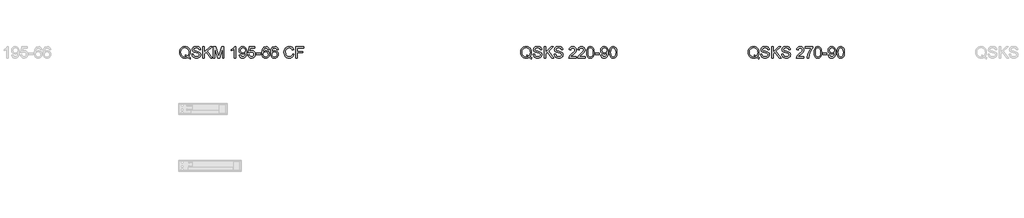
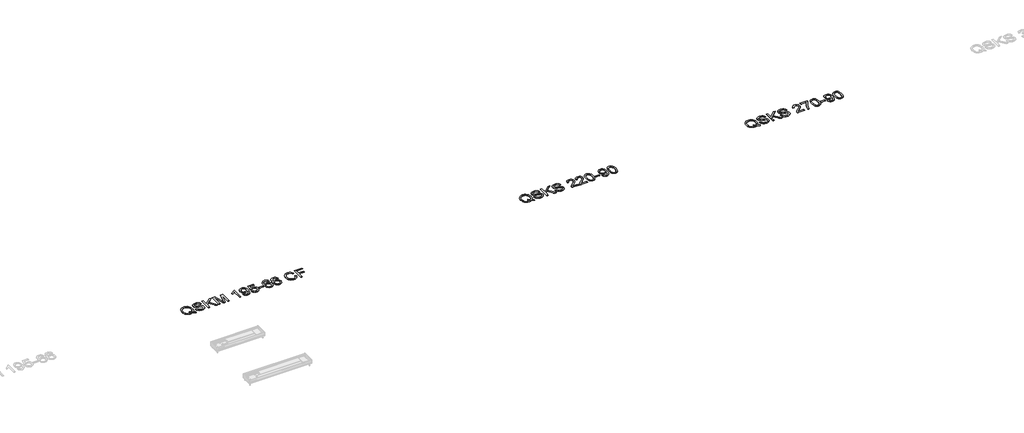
# One storey, part 14 of 17: 3 proxies.
"""IFC4 building model written with IfcOpenShell, lengths in millimetres."""

from ifc_helpers import new_model, si_unit, origin, origin_with_axes, place, context, project, spatial, polyline, outline, extrude, element, save

model = new_model("IFC4")

# Units and contexts
model_context = context("Model", 3, world=origin())
ifc_project = project(units=[si_unit("LENGTHUNIT", "METRE", prefix="MILLI")], contexts=[model_context])

# Site, building, storey
site = spatial("IfcSite", under=ifc_project)
building = spatial("IfcBuilding", under=site)
storey = spatial("IfcBuildingStorey", under=building, Name="Уровень 1", Elevation=0.0)

# Proxies
placement = place(None, origin())
element("IfcBuildingElementProxy", 1, Name="Текст модели 1", ObjectType="Текст модели 1", at=placement, inside=storey, context=model_context, shape_type="SweptSolid", body=[
    extrude(outline(polyline([(9854.9155502, 3515.8415377), (9886.0628925, 3494.8967894), (9879.2938637, 3476.5026897), (9858.5821074, 3486.1044098), (9837.9439275, 3499.9980864), (9814.7060481, 3491.4632242), (9789.1382495, 3488.6182701), (9763.4478235, 3491.8985512), (9740.2344696, 3501.7393946), (9720.7919061, 3517.5215321), (9706.4138515, 3538.6256959), (9697.5295013, 3563.8930576), (9694.5680512, 3592.164789), (9697.5233699, 3620.4610458), (9706.389326, 3646.0962895), (9720.7121984, 3667.5008902), (9740.0382658, 3683.1052182), (9763.1657806, 3692.6333619), (9788.8929948, 3695.8094097), (9814.8225441, 3692.5597855), (9838.0665548, 3682.8109126), (9857.3619655, 3667.212716), (9871.4457145, 3646.4151205), (9880.0541532, 3621.5217722), (9882.9236328, 3593.6363169), (9881.1823247, 3570.4474885), (9875.9584003, 3549.7357322), (9867.2150716, 3531.5255734), (9854.9155502, 3515.8415377)]), holes=[polyline([(9796.054431, 3549.2452229), (9817.1708575, 3541.2621836), (9834.2160566, 3530.16441), (9844.5382122, 3541.8140066), (9851.9111806, 3556.0633025), (9856.3349616, 3572.9122979), (9857.8095552, 3592.3609927), (9855.7248906, 3614.4645692), (9849.4708967, 3633.5883016), (9839.2008576, 3649.2478119), (9825.0680577, 3660.9587221), (9808.0289899, 3668.2611797), (9789.0401476, 3670.6953322), (9761.6697272, 3665.7718448), (9739.4006037, 3651.0013827), (9730.7737709, 3639.9419303), (9724.6117475, 3626.4575223), (9719.6821288, 3592.2138399), (9724.5565652, 3558.7059215), (9730.6496108, 3545.2583017), (9739.1798745, 3534.0149083), (9761.3815529, 3518.8029878), (9788.9910967, 3513.7323476), (9816.0181606, 3518.8826955), (9789.5797079, 3530.0172573), (9796.054431, 3549.2452229)])]), origin_with_axes(), (0.0, 0.0, 1.0), 2.0),
    extrude(outline(polyline([(9911.17697, 3560.821243), (9936.2910475, 3560.821243), (9944.3844514, 3535.68264), (9952.5146435, 3526.7921584), (9964.1519773, 3519.7901378), (9978.3767478, 3515.2467951), (9994.26925, 3513.7323476), (10020.511499, 3518.3186098), (10037.4585962, 3530.9246995), (10043.0258771, 3547.7736949), (10038.8565478, 3563.4454679), (10032.504452, 3569.6442795), (10021.7868232, 3574.8498097), (9985.2193529, 3584.4392671), (9945.8559794, 3596.8246276), (9933.3541229, 3605.2736507), (9924.4942982, 3615.5130329), (9919.2151916, 3627.322045), (9917.4554894, 3640.4799577), (9919.6321245, 3655.1891061), (9926.1620299, 3668.9049732), (9936.8735274, 3680.5300442), (9951.5949385, 3688.9668046), (9969.265537, 3694.0987585), (9988.8245964, 3695.8094097), (10010.0145994, 3694.0190507), (10028.5558519, 3688.6479736), (10043.7861665, 3679.806543), (10055.0433556, 3667.6051234), (10062.1680035, 3652.8040045), (10065.0006949, 3636.1634756), (10039.8866174, 3636.1634756), (10035.2758297, 3651.1485355), (10025.6618469, 3661.9642662), (10010.6399988, 3668.5125657), (9989.8056151, 3670.6953322), (9968.4807221, 3668.5370912), (9953.8512814, 3662.0623681), (9945.3899955, 3652.5342244), (9942.5695669, 3641.2157217), (9944.5683924, 3631.5649507), (9950.5648689, 3623.8026406), (9964.7405885, 3616.8619336), (9991.5714487, 3609.7740738), (10036.0115937, 3597.1679841), (10050.3283347, 3588.0567734), (10060.3163308, 3576.811847), (10066.1840487, 3563.5558325), (10068.1399546, 3548.411357), (10065.8897431, 3532.9296564), (10059.1391085, 3518.3676607), (10048.1639623, 3505.8351474), (10033.240216, 3496.4418938), (10015.293706, 3490.574176), (9995.2502686, 3488.6182701), (9970.6450945, 3490.7274602), (9950.3931907, 3497.0550305), (9934.2615652, 3507.6255065), (9922.0172261, 3522.4634136), (9914.1568142, 3540.5386823), (9911.17697, 3560.821243)])), origin_with_axes(), (0.0, 0.0, 1.0), 2.0),
    extrude(outline(polyline([(10105.8110709, 3491.7575298), (10105.8110709, 3692.6701501), (10130.9251484, 3692.6701501), (10130.9251484, 3594.32303), (10233.9321071, 3692.6701501), (10269.0525749, 3692.6701501), (10182.5757806, 3610.0683794), (10272.1918346, 3491.7575298), (10241.4859507, 3491.7575298), (10164.770292, 3593.0967567), (10130.9251484, 3560.821243), (10130.9251484, 3491.7575298), (10105.8110709, 3491.7575298)])), origin_with_axes(), (0.0, 0.0, 1.0), 2.0),
    extrude(outline(polyline([(10291.0273927, 3491.7575298), (10291.0273927, 3692.6701501), (10334.2412644, 3692.6701501), (10375.345946, 3551.0601074), (10383.6355537, 3521.482395), (10392.6118743, 3553.512654), (10433.0298429, 3692.6701501), (10476.2437146, 3692.6701501), (10476.2437146, 3491.7575298), (10451.129637, 3491.7575298), (10451.129637, 3667.5560725), (10400.6562273, 3491.7575298), (10366.61488, 3491.7575298), (10316.1414703, 3667.5560725), (10316.1414703, 3491.7575298), (10291.0273927, 3491.7575298)])), origin_with_axes(), (0.0, 0.0, 1.0), 2.0),
    extrude(outline(polyline([(10683.4348543, 3491.7575298), (10658.3207767, 3491.7575298), (10658.3207767, 3648.3281069), (10634.5310744, 3631.3810097), (10608.0926217, 3618.7013436), (10608.0926217, 3642.441995), (10644.9053466, 3665.9373917), (10658.375959, 3679.5122374), (10667.2480465, 3692.6701501), (10683.4348543, 3692.6701501), (10683.4348543, 3491.7575298)])), origin_with_axes(), (0.0, 0.0, 1.0), 2.0),
    extrude(outline(polyline([(10746.2200481, 3541.9856848), (10771.3341256, 3545.1249445), (10775.6260823, 3530.8695172), (10782.6158402, 3521.1635639), (10792.1317211, 3515.5901517), (10804.0020468, 3513.7323476), (10824.3336584, 3518.5148135), (10838.1169705, 3531.2925815), (10846.3330017, 3553.1202465), (10849.9627708, 3582.2565006), (10849.815618, 3587.1615938), (10841.1152088, 3576.5420669), (10829.729261, 3568.129832), (10816.4793778, 3562.6483902), (10802.1871623, 3560.821243), (10779.2865081, 3565.2848779), (10760.2240894, 3578.6757825), (10747.3666137, 3599.3630133), (10743.0807884, 3625.7156269), (10747.5750801, 3652.9388946), (10761.0579552, 3674.2760503), (10781.3098591, 3688.0716251), (10806.1112369, 3692.6701501), (10824.8425618, 3690.0459252), (10841.8938923, 3682.1732505), (10856.155451, 3669.4445334), (10866.5174605, 3652.2521815), (10872.8266368, 3628.4870046), (10874.9296955, 3596.0398127), (10872.8327681, 3561.6367147), (10866.541986, 3535.0449779), (10856.1125314, 3515.0628541), (10841.5995867, 3500.4885958), (10823.6285513, 3491.5858515), (10802.8248244, 3488.6182701), (10781.3527787, 3492.1192804), (10764.2217404, 3502.6223113), (10752.2410501, 3519.4651754), (10746.2200481, 3541.9856848)]), holes=[polyline([(10849.815618, 3626.3042381), (10847.1055539, 3643.3249118), (10838.9753618, 3656.4215108), (10826.3570094, 3664.7724321), (10810.1824643, 3667.5560725), (10793.4070454, 3664.5578343), (10779.9670898, 3655.5631195), (10771.1379219, 3641.7982015), (10768.194866, 3624.4893536), (10770.9785064, 3608.9708648), (10779.3294277, 3596.6529493), (10792.4382894, 3588.6147277), (10809.4957513, 3585.9353205), (10825.5415376, 3588.6147277), (10838.460327, 3596.6529493), (10846.9767952, 3609.4245859), (10849.815618, 3626.3042381)])]), origin_with_axes(), (0.0, 0.0, 1.0), 2.0),
    extrude(outline(polyline([(10896.9045133, 3545.1249445), (10922.0185909, 3548.2642042), (10926.6293785, 3533.1871738), (10934.6737315, 3522.3898372), (10946.1148616, 3515.89672), (10960.9159805, 3513.7323476), (10978.9176728, 3516.7428486), (10992.4066793, 3525.7743516), (11000.831177, 3539.7845242), (11003.6393429, 3557.7310342), (11001.0089866, 3574.6290805), (10993.1179178, 3587.5540013), (10979.9048228, 3595.7577698), (10961.308388, 3598.4923593), (10939.2599937, 3594.1268263), (10925.1578506, 3582.7960608), (10900.043773, 3585.9353205), (10922.0185909, 3689.5308904), (11019.3356413, 3689.5308904), (11019.3356413, 3664.4168128), (10942.325677, 3664.4168128), (10931.5835227, 3609.0873607), (10949.5239014, 3619.9766678), (10968.3226713, 3623.6064368), (10991.7874113, 3619.1060137), (11011.2667629, 3605.6047445), (11024.381756, 3585.0278783), (11028.7534204, 3559.3006641), (11024.8170831, 3534.1865865), (11013.008071, 3512.702278), (11002.5724851, 3502.1655245), (10990.395591, 3494.639272), (10976.4773889, 3490.1235206), (10960.8178786, 3488.6182701), (10936.1513909, 3492.4871624), (10916.5003609, 3504.0938393), (10903.0297486, 3522.0894003), (10896.9045133, 3545.1249445)])), origin_with_axes(), (0.0, 0.0, 1.0), 2.0),
    extrude(outline(polyline([(11044.4497189, 3551.4034639), (11044.4497189, 3576.5175414), (11122.9312112, 3576.5175414), (11122.9312112, 3551.4034639), (11044.4497189, 3551.4034639)])), origin_with_axes(), (0.0, 0.0, 1.0), 2.0),
    extrude(outline(polyline([(11273.6156764, 3639.3027353), (11248.5015989, 3636.1634756), (11238.9857179, 3657.1082239), (11227.5936388, 3664.9441103), (11213.8225894, 3667.5560725), (11191.1610585, 3661.4737569), (11181.7248854, 3651.8659054), (11174.0177576, 3638.6405477), (11168.8122273, 3619.9337482), (11166.8808469, 3593.8815716), (11176.9546822, 3605.6354014), (11189.027343, 3613.9188776), (11202.424379, 3618.8301023), (11216.4713398, 3620.4671771), (11239.672431, 3615.9912795), (11259.1456513, 3602.5635867), (11272.3526149, 3582.0480341), (11276.7549361, 3556.3085572), (11274.6825342, 3538.325259), (11268.4653285, 3521.6540732), (11258.6183537, 3507.5151419), (11245.6566448, 3497.1286069), (11230.1688128, 3490.7458543), (11212.7434689, 3488.6182701), (11184.2510084, 3494.2591273), (11161.5588207, 3511.1816991), (11152.8997982, 3524.2905609), (11146.7147822, 3541.0537171), (11141.7667693, 3585.5429131), (11147.2604738, 3635.5626017), (11154.1276044, 3654.6403488), (11163.7415872, 3669.7633645), (11174.1618447, 3679.7850832), (11186.2437025, 3686.9434537), (11215.3922193, 3692.6701501), (11237.4283508, 3689.1262202), (11255.0744238, 3678.4944305), (11267.4352589, 3661.6086469), (11273.6156764, 3639.3027353)]), holes=[polyline([(11166.8808469, 3556.7009646), (11172.6933824, 3534.946876), (11188.1444262, 3519.1524757), (11210.7814316, 3513.7323476), (11227.3545155, 3516.5405135), (11240.3836695, 3524.9650112), (11248.8265613, 3538.208763), (11251.6408586, 3555.4746913), (11248.8633495, 3572.0477752), (11240.5308223, 3584.6845217), (11227.2809391, 3592.6859551), (11209.751362, 3595.3530996), (11193.2028036, 3592.6859551), (11179.3643092, 3584.6845217), (11170.0017125, 3572.3543435), (11166.8808469, 3556.7009646)])]), origin_with_axes(), (0.0, 0.0, 1.0), 2.0),
    extrude(outline(polyline([(11427.4394013, 3639.3027353), (11402.3253238, 3636.1634756), (11392.8094428, 3657.1082239), (11381.4173637, 3664.9441103), (11367.6463144, 3667.5560725), (11344.9847835, 3661.4737569), (11335.5486103, 3651.8659054), (11327.8414825, 3638.6405477), (11322.6359523, 3619.9337482), (11320.7045718, 3593.8815716), (11330.7784071, 3605.6354014), (11342.8510679, 3613.9188776), (11356.2481039, 3618.8301023), (11370.2950647, 3620.4671771), (11393.4961559, 3615.9912795), (11412.9693762, 3602.5635867), (11426.1763398, 3582.0480341), (11430.578661, 3556.3085572), (11428.5062591, 3538.325259), (11422.2890534, 3521.6540732), (11412.4420786, 3507.5151419), (11399.4803697, 3497.1286069), (11383.9925377, 3490.7458543), (11366.5671938, 3488.6182701), (11338.0747333, 3494.2591273), (11315.3825456, 3511.1816991), (11306.7235231, 3524.2905609), (11300.5385071, 3541.0537171), (11295.5904942, 3585.5429131), (11301.0841987, 3635.5626017), (11307.9513293, 3654.6403488), (11317.5653121, 3669.7633645), (11327.9855696, 3679.7850832), (11340.0674275, 3686.9434537), (11369.2159442, 3692.6701501), (11391.2520757, 3689.1262202), (11408.8981488, 3678.4944305), (11421.2589838, 3661.6086469), (11427.4394013, 3639.3027353)]), holes=[polyline([(11320.7045718, 3556.7009646), (11326.5171073, 3534.946876), (11341.9681511, 3519.1524757), (11364.6051565, 3513.7323476), (11381.1782404, 3516.5405135), (11394.2073944, 3524.9650112), (11402.6502862, 3538.208763), (11405.4645835, 3555.4746913), (11402.6870744, 3572.0477752), (11394.3545472, 3584.6845217), (11381.104664, 3592.6859551), (11363.575087, 3595.3530996), (11347.0265285, 3592.6859551), (11333.1880341, 3584.6845217), (11323.8254374, 3572.3543435), (11320.7045718, 3556.7009646)])]), origin_with_axes(), (0.0, 0.0, 1.0), 2.0),
    extrude(outline(polyline([(11681.7194364, 3563.1756877), (11706.8335139, 3556.7009646), (11695.2452311, 3527.4359519), (11677.0595978, 3506.0558766), (11653.1717936, 3492.9776717), (11624.4769979, 3488.6182701), (11595.3468753, 3491.9169453), (11572.2132291, 3501.812971), (11554.481317, 3517.9629905), (11541.5563962, 3540.0236475), (11533.6653274, 3565.9593282), (11531.0349712, 3593.7344188), (11534.0086839, 3623.0300884), (11542.9298223, 3648.3281069), (11557.3324024, 3668.8252654), (11576.7504404, 3683.7183548), (11599.7798533, 3692.786646), (11625.0165582, 3695.8094097), (11652.5525255, 3691.8975979), (11675.3182897, 3680.1621622), (11692.6026121, 3661.3266041), (11703.6942542, 3636.1144247), (11678.5801767, 3630.1302109), (11669.8736361, 3648.4446029), (11657.978785, 3661.007773), (11642.7484704, 3668.2734424), (11624.0355395, 3670.6953322), (11602.4653919, 3668.0097936), (11584.7457425, 3659.9531779), (11571.2996555, 3647.3716137), (11562.5501954, 3631.1112295), (11557.7493354, 3612.7293925), (11556.1490487, 3593.7834697), (11558.043641, 3570.5823786), (11563.7274178, 3550.5205471), (11573.414977, 3534.3643962), (11587.3209164, 3522.8803465), (11603.9921022, 3516.0193473), (11621.9754004, 3513.7323476), (11642.9385427, 3516.8470818), (11660.4068061, 3526.1912845), (11673.5953757, 3541.6668538), (11681.7194364, 3563.1756877)])), origin_with_axes(), (0.0, 0.0, 1.0), 2.0),
    extrude(outline(polyline([(11741.3653705, 3491.7575298), (11741.3653705, 3692.6701501), (11876.3535373, 3692.6701501), (11876.3535373, 3667.5560725), (11766.4794481, 3667.5560725), (11766.4794481, 3607.9101384), (11860.6572388, 3607.9101384), (11860.6572388, 3582.7960608), (11766.4794481, 3582.7960608), (11766.4794481, 3491.7575298), (11741.3653705, 3491.7575298)])), origin_with_axes(), (0.0, 0.0, 1.0), 2.0),
])
element("IfcBuildingElementProxy", 2, Name="Текст модели 1", ObjectType="Текст модели 1", at=placement, inside=storey, context=model_context, shape_type="SweptSolid", body=[
    extrude(outline(polyline([(15854.9155502, 3515.8415377), (15886.0628925, 3494.8967894), (15879.2938637, 3476.5026897), (15858.5821074, 3486.1044098), (15837.9439275, 3499.9980864), (15814.7060481, 3491.4632242), (15789.1382495, 3488.6182701), (15763.4478235, 3491.8985512), (15740.2344696, 3501.7393946), (15720.7919061, 3517.5215321), (15706.4138515, 3538.6256959), (15697.5295013, 3563.8930576), (15694.5680512, 3592.164789), (15697.5233699, 3620.4610458), (15706.389326, 3646.0962895), (15720.7121984, 3667.5008902), (15740.0382658, 3683.1052182), (15763.1657806, 3692.6333619), (15788.8929948, 3695.8094097), (15814.8225441, 3692.5597855), (15838.0665548, 3682.8109126), (15857.3619655, 3667.212716), (15871.4457145, 3646.4151205), (15880.0541532, 3621.5217722), (15882.9236328, 3593.6363169), (15881.1823247, 3570.4474885), (15875.9584003, 3549.7357322), (15867.2150716, 3531.5255734), (15854.9155502, 3515.8415377)]), holes=[polyline([(15796.054431, 3549.2452229), (15817.1708575, 3541.2621836), (15834.2160566, 3530.16441), (15844.5382122, 3541.8140066), (15851.9111806, 3556.0633025), (15856.3349616, 3572.9122979), (15857.8095552, 3592.3609927), (15855.7248906, 3614.4645692), (15849.4708967, 3633.5883016), (15839.2008576, 3649.2478119), (15825.0680577, 3660.9587221), (15808.0289899, 3668.2611797), (15789.0401476, 3670.6953322), (15761.6697272, 3665.7718448), (15739.4006037, 3651.0013827), (15730.7737709, 3639.9419303), (15724.6117475, 3626.4575223), (15719.6821288, 3592.2138399), (15724.5565652, 3558.7059215), (15730.6496108, 3545.2583017), (15739.1798745, 3534.0149083), (15761.3815529, 3518.8029878), (15788.9910967, 3513.7323476), (15816.0181606, 3518.8826955), (15789.5797079, 3530.0172573), (15796.054431, 3549.2452229)])]), origin_with_axes(), (0.0, 0.0, 1.0), 2.0),
    extrude(outline(polyline([(15911.17697, 3560.821243), (15936.2910475, 3560.821243), (15944.3844514, 3535.68264), (15952.5146435, 3526.7921584), (15964.1519773, 3519.7901378), (15978.3767478, 3515.2467951), (15994.26925, 3513.7323476), (16020.511499, 3518.3186098), (16037.4585962, 3530.9246995), (16043.0258771, 3547.7736949), (16038.8565478, 3563.4454679), (16032.504452, 3569.6442795), (16021.7868232, 3574.8498097), (15985.2193529, 3584.4392671), (15945.8559794, 3596.8246276), (15933.3541229, 3605.2736507), (15924.4942982, 3615.5130329), (15919.2151916, 3627.322045), (15917.4554894, 3640.4799577), (15919.6321245, 3655.1891061), (15926.1620299, 3668.9049732), (15936.8735274, 3680.5300442), (15951.5949385, 3688.9668046), (15969.265537, 3694.0987585), (15988.8245964, 3695.8094097), (16010.0145994, 3694.0190507), (16028.5558519, 3688.6479736), (16043.7861665, 3679.806543), (16055.0433556, 3667.6051234), (16062.1680035, 3652.8040045), (16065.0006949, 3636.1634756), (16039.8866174, 3636.1634756), (16035.2758297, 3651.1485355), (16025.6618469, 3661.9642662), (16010.6399988, 3668.5125657), (15989.8056151, 3670.6953322), (15968.4807221, 3668.5370912), (15953.8512814, 3662.0623681), (15945.3899955, 3652.5342244), (15942.5695669, 3641.2157217), (15944.5683924, 3631.5649507), (15950.5648689, 3623.8026406), (15964.7405885, 3616.8619336), (15991.5714487, 3609.7740738), (16036.0115937, 3597.1679841), (16050.3283347, 3588.0567734), (16060.3163308, 3576.811847), (16066.1840487, 3563.5558325), (16068.1399546, 3548.411357), (16065.8897431, 3532.9296564), (16059.1391085, 3518.3676607), (16048.1639623, 3505.8351474), (16033.240216, 3496.4418938), (16015.293706, 3490.574176), (15995.2502686, 3488.6182701), (15970.6450945, 3490.7274602), (15950.3931907, 3497.0550305), (15934.2615652, 3507.6255065), (15922.0172261, 3522.4634136), (15914.1568142, 3540.5386823), (15911.17697, 3560.821243)])), origin_with_axes(), (0.0, 0.0, 1.0), 2.0),
    extrude(outline(polyline([(16105.8110709, 3491.7575298), (16105.8110709, 3692.6701501), (16130.9251484, 3692.6701501), (16130.9251484, 3594.32303), (16233.9321071, 3692.6701501), (16269.0525749, 3692.6701501), (16182.5757806, 3610.0683794), (16272.1918346, 3491.7575298), (16241.4859507, 3491.7575298), (16164.770292, 3593.0967567), (16130.9251484, 3560.821243), (16130.9251484, 3491.7575298), (16105.8110709, 3491.7575298)])), origin_with_axes(), (0.0, 0.0, 1.0), 2.0),
    extrude(outline(polyline([(16281.6096137, 3560.821243), (16306.7236912, 3560.821243), (16314.8170951, 3535.68264), (16322.9472872, 3526.7921584), (16334.584621, 3519.7901378), (16348.8093915, 3515.2467951), (16364.7018936, 3513.7323476), (16390.9441426, 3518.3186098), (16407.8912399, 3530.9246995), (16413.4585207, 3547.7736949), (16409.2891915, 3563.4454679), (16402.9370957, 3569.6442795), (16392.2194669, 3574.8498097), (16355.6519966, 3584.4392671), (16316.2886231, 3596.8246276), (16303.7867666, 3605.2736507), (16294.9269419, 3615.5130329), (16289.6478353, 3627.322045), (16287.8881331, 3640.4799577), (16290.0647682, 3655.1891061), (16296.5946736, 3668.9049732), (16307.306171, 3680.5300442), (16322.0275822, 3688.9668046), (16339.6981807, 3694.0987585), (16359.2572401, 3695.8094097), (16380.447243, 3694.0190507), (16398.9884956, 3688.6479736), (16414.2188102, 3679.806543), (16425.4759992, 3667.6051234), (16432.6006472, 3652.8040045), (16435.4333386, 3636.1634756), (16410.319261, 3636.1634756), (16405.7084734, 3651.1485355), (16396.0944906, 3661.9642662), (16381.0726424, 3668.5125657), (16360.2382588, 3670.6953322), (16338.9133658, 3668.5370912), (16324.2839251, 3662.0623681), (16315.8226392, 3652.5342244), (16313.0022106, 3641.2157217), (16315.0010361, 3631.5649507), (16320.9975126, 3623.8026406), (16335.1732322, 3616.8619336), (16362.0040923, 3609.7740738), (16406.4442374, 3597.1679841), (16420.7609783, 3588.0567734), (16430.7489745, 3576.811847), (16436.6166923, 3563.5558325), (16438.5725983, 3548.411357), (16436.3223867, 3532.9296564), (16429.5717521, 3518.3676607), (16418.5966059, 3505.8351474), (16403.6728597, 3496.4418938), (16385.7263497, 3490.574176), (16365.6829123, 3488.6182701), (16341.0777382, 3490.7274602), (16320.8258344, 3497.0550305), (16304.6942089, 3507.6255065), (16292.4498698, 3522.4634136), (16284.5894578, 3540.5386823), (16281.6096137, 3560.821243)])), origin_with_axes(), (0.0, 0.0, 1.0), 2.0),
    extrude(outline(polyline([(16674.0170752, 3516.8716073), (16674.0170752, 3491.7575298), (16542.1681681, 3491.7575298), (16544.8659694, 3509.072509), (16560.1208095, 3535.7316909), (16591.5624573, 3564.8434195), (16634.9234818, 3606.683865), (16643.0536739, 3621.1048393), (16645.763738, 3635.133406), (16643.2069581, 3647.7088389), (16635.5366185, 3658.1628189), (16623.7460005, 3665.2077591), (16608.8283856, 3667.5560725), (16593.162744, 3665.2629414), (16580.9919813, 3658.3835481), (16573.1377007, 3647.4574528), (16570.4215053, 3633.0242159), (16545.3074278, 3636.1634756), (16551.3958748, 3660.45595), (16564.5599189, 3678.2001249), (16584.1128469, 3689.0526438), (16609.3679459, 3692.6701501), (16634.8069859, 3688.6479736), (16654.3231257, 3676.5814441), (16666.7391431, 3658.5552264), (16670.8778155, 3636.6539849), (16666.4141806, 3612.8397571), (16651.5762735, 3588.2161889), (16615.5974144, 3553.8069596), (16586.706415, 3529.6493753), (16575.3756496, 3516.8716073), (16674.0170752, 3516.8716073)])), origin_with_axes(), (0.0, 0.0, 1.0), 2.0),
    extrude(outline(polyline([(16827.8408001, 3516.8716073), (16827.8408001, 3491.7575298), (16695.991893, 3491.7575298), (16698.6896943, 3509.072509), (16713.9445344, 3535.7316909), (16745.3861823, 3564.8434195), (16788.7472068, 3606.683865), (16796.8773988, 3621.1048393), (16799.5874629, 3635.133406), (16797.030683, 3647.7088389), (16789.3603434, 3658.1628189), (16777.5697255, 3665.2077591), (16762.6521106, 3667.5560725), (16746.9864689, 3665.2629414), (16734.8157063, 3658.3835481), (16726.9614257, 3647.4574528), (16724.2452303, 3633.0242159), (16699.1311527, 3636.1634756), (16705.2195997, 3660.45595), (16718.3836438, 3678.2001249), (16737.9365719, 3689.0526438), (16763.1916708, 3692.6701501), (16788.6307108, 3688.6479736), (16808.1468506, 3676.5814441), (16820.562868, 3658.5552264), (16824.7015404, 3636.6539849), (16820.2379055, 3612.8397571), (16805.3999984, 3588.2161889), (16769.4211393, 3553.8069596), (16740.5301399, 3529.6493753), (16729.1993745, 3516.8716073), (16827.8408001, 3516.8716073)])), origin_with_axes(), (0.0, 0.0, 1.0), 2.0),
    extrude(outline(polyline([(16852.9548776, 3590.5951591), (16854.800419, 3622.7541769), (16860.337043, 3648.4016833), (16869.5095674, 3667.9300859), (16882.2628099, 3681.7317921), (16898.688741, 3689.9355606), (16918.8793312, 3692.6701501), (16934.3549004, 3691.0514693), (16948.2117889, 3686.1954269), (16959.8000718, 3678.2920954), (16968.4698241, 3667.531547), (16980.242048, 3637.8066818), (16984.8037847, 3590.5951591), (16982.9766375, 3558.6200824), (16977.4951957, 3533.0338896), (16968.3778536, 3513.4870929), (16955.6430052, 3499.6302044), (16939.1802859, 3491.3712537), (16918.8793312, 3488.6182701), (16892.784235, 3493.400736), (16872.9676582, 3507.7481338), (16864.2120667, 3522.8772809), (16857.9580728, 3541.7281674), (16852.9548776, 3590.5951591)]), holes=[polyline([(16878.0689552, 3590.6442101), (16881.0120111, 3551.1398151), (16889.841179, 3528.2759491), (16902.986829, 3517.368248), (16918.8793312, 3513.7323476), (16934.7718334, 3517.3805107), (16947.9174833, 3528.3250001), (16956.7466512, 3551.2011288), (16959.6897072, 3590.6442101), (16956.8447531, 3629.2595568), (16948.3098908, 3652.3012324), (16935.1887663, 3663.7423625), (16918.5850256, 3667.5560725), (16902.8642017, 3664.1960836), (16890.2335865, 3654.116117), (16881.110113, 3629.6397015), (16878.0689552, 3590.6442101)])]), origin_with_axes(), (0.0, 0.0, 1.0), 2.0),
    extrude(outline(polyline([(17000.5000832, 3551.4034639), (17000.5000832, 3576.5175414), (17078.9815755, 3576.5175414), (17078.9815755, 3551.4034639), (17000.5000832, 3551.4034639)])), origin_with_axes(), (0.0, 0.0, 1.0), 2.0),
    extrude(outline(polyline([(17104.095653, 3541.9856848), (17129.2097306, 3545.1249445), (17133.5016872, 3530.8695172), (17140.4914451, 3521.1635639), (17150.007326, 3515.5901517), (17161.8776517, 3513.7323476), (17182.2092633, 3518.5148135), (17195.9925754, 3531.2925815), (17204.2086066, 3553.1202465), (17207.8383757, 3582.2565006), (17207.6912229, 3587.1615938), (17198.9908137, 3576.5420669), (17187.6048659, 3568.129832), (17174.3549827, 3562.6483902), (17160.0627672, 3560.821243), (17137.162113, 3565.2848779), (17118.0996943, 3578.6757825), (17105.2422186, 3599.3630133), (17100.9563933, 3625.7156269), (17105.450685, 3652.9388946), (17118.9335602, 3674.2760503), (17139.185464, 3688.0716251), (17163.9868418, 3692.6701501), (17182.7181668, 3690.0459252), (17199.7694972, 3682.1732505), (17214.0310559, 3669.4445334), (17224.3930654, 3652.2521815), (17230.7022417, 3628.4870046), (17232.8053004, 3596.0398127), (17230.708373, 3561.6367147), (17224.4175909, 3535.0449779), (17213.9881363, 3515.0628541), (17199.4751916, 3500.4885958), (17181.5041562, 3491.5858515), (17160.7004293, 3488.6182701), (17139.2283836, 3492.1192804), (17122.0973453, 3502.6223113), (17110.116655, 3519.4651754), (17104.095653, 3541.9856848)]), holes=[polyline([(17207.6912229, 3626.3042381), (17204.9811588, 3643.3249118), (17196.8509667, 3656.4215108), (17184.2326143, 3664.7724321), (17168.0580692, 3667.5560725), (17151.2826503, 3664.5578343), (17137.8426947, 3655.5631195), (17129.0135268, 3641.7982015), (17126.0704709, 3624.4893536), (17128.8541113, 3608.9708648), (17137.2050326, 3596.6529493), (17150.3138943, 3588.6147277), (17167.3713562, 3585.9353205), (17183.4171425, 3588.6147277), (17196.3359319, 3596.6529493), (17204.8524001, 3609.4245859), (17207.6912229, 3626.3042381)])]), origin_with_axes(), (0.0, 0.0, 1.0), 2.0),
    extrude(outline(polyline([(17254.7801182, 3590.5951591), (17256.6256596, 3622.7541769), (17262.1622836, 3648.4016833), (17271.334808, 3667.9300859), (17284.0880505, 3681.7317921), (17300.5139816, 3689.9355606), (17320.7045718, 3692.6701501), (17336.180141, 3691.0514693), (17350.0370295, 3686.1954269), (17361.6253124, 3678.2920954), (17370.2950647, 3667.531547), (17382.0672886, 3637.8066818), (17386.6290253, 3590.5951591), (17384.8018781, 3558.6200824), (17379.3204363, 3533.0338896), (17370.2030942, 3513.4870929), (17357.4682458, 3499.6302044), (17341.0055265, 3491.3712537), (17320.7045718, 3488.6182701), (17294.6094756, 3493.400736), (17274.7928988, 3507.7481338), (17266.0373073, 3522.8772809), (17259.7833134, 3541.7281674), (17254.7801182, 3590.5951591)]), holes=[polyline([(17279.8941958, 3590.6442101), (17282.8372517, 3551.1398151), (17291.6664196, 3528.2759491), (17304.8120696, 3517.368248), (17320.7045718, 3513.7323476), (17336.597074, 3517.3805107), (17349.7427239, 3528.3250001), (17358.5718918, 3551.2011288), (17361.5149478, 3590.6442101), (17358.6699937, 3629.2595568), (17350.1351314, 3652.3012324), (17337.0140069, 3663.7423625), (17320.4102662, 3667.5560725), (17304.6894423, 3664.1960836), (17292.0588271, 3654.116117), (17282.9353536, 3629.6397015), (17279.8941958, 3590.6442101)])]), origin_with_axes(), (0.0, 0.0, 1.0), 2.0),
])
element("IfcBuildingElementProxy", 3, Name="Текст модели 1", ObjectType="Текст модели 1", at=placement, inside=storey, context=model_context, shape_type="SweptSolid", body=[
    extrude(outline(polyline([(19854.9155502, 3515.8415377), (19886.0628925, 3494.8967894), (19879.2938637, 3476.5026897), (19858.5821074, 3486.1044098), (19837.9439275, 3499.9980864), (19814.7060481, 3491.4632242), (19789.1382495, 3488.6182701), (19763.4478235, 3491.8985512), (19740.2344696, 3501.7393946), (19720.7919061, 3517.5215321), (19706.4138515, 3538.6256959), (19697.5295013, 3563.8930576), (19694.5680512, 3592.164789), (19697.5233699, 3620.4610458), (19706.389326, 3646.0962895), (19720.7121984, 3667.5008902), (19740.0382658, 3683.1052182), (19763.1657806, 3692.6333619), (19788.8929948, 3695.8094097), (19814.8225441, 3692.5597855), (19838.0665548, 3682.8109126), (19857.3619655, 3667.212716), (19871.4457145, 3646.4151205), (19880.0541532, 3621.5217722), (19882.9236328, 3593.6363169), (19881.1823247, 3570.4474885), (19875.9584003, 3549.7357322), (19867.2150716, 3531.5255734), (19854.9155502, 3515.8415377)]), holes=[polyline([(19796.054431, 3549.2452229), (19817.1708575, 3541.2621836), (19834.2160566, 3530.16441), (19844.5382122, 3541.8140066), (19851.9111806, 3556.0633025), (19856.3349616, 3572.9122979), (19857.8095552, 3592.3609927), (19855.7248906, 3614.4645692), (19849.4708967, 3633.5883016), (19839.2008576, 3649.2478119), (19825.0680577, 3660.9587221), (19808.0289899, 3668.2611797), (19789.0401476, 3670.6953322), (19761.6697272, 3665.7718448), (19739.4006037, 3651.0013827), (19730.7737709, 3639.9419303), (19724.6117475, 3626.4575223), (19719.6821288, 3592.2138399), (19724.5565652, 3558.7059215), (19730.6496108, 3545.2583017), (19739.1798745, 3534.0149083), (19761.3815529, 3518.8029878), (19788.9910967, 3513.7323476), (19816.0181606, 3518.8826955), (19789.5797079, 3530.0172573), (19796.054431, 3549.2452229)])]), origin_with_axes(), (0.0, 0.0, 1.0), 2.0),
    extrude(outline(polyline([(19911.17697, 3560.821243), (19936.2910475, 3560.821243), (19944.3844514, 3535.68264), (19952.5146435, 3526.7921584), (19964.1519773, 3519.7901378), (19978.3767478, 3515.2467951), (19994.26925, 3513.7323476), (20020.511499, 3518.3186098), (20037.4585962, 3530.9246995), (20043.0258771, 3547.7736949), (20038.8565478, 3563.4454679), (20032.504452, 3569.6442795), (20021.7868232, 3574.8498097), (19985.2193529, 3584.4392671), (19945.8559794, 3596.8246276), (19933.3541229, 3605.2736507), (19924.4942982, 3615.5130329), (19919.2151916, 3627.322045), (19917.4554894, 3640.4799577), (19919.6321245, 3655.1891061), (19926.1620299, 3668.9049732), (19936.8735274, 3680.5300442), (19951.5949385, 3688.9668046), (19969.265537, 3694.0987585), (19988.8245964, 3695.8094097), (20010.0145994, 3694.0190507), (20028.5558519, 3688.6479736), (20043.7861665, 3679.806543), (20055.0433556, 3667.6051234), (20062.1680035, 3652.8040045), (20065.0006949, 3636.1634756), (20039.8866174, 3636.1634756), (20035.2758297, 3651.1485355), (20025.6618469, 3661.9642662), (20010.6399988, 3668.5125657), (19989.8056151, 3670.6953322), (19968.4807221, 3668.5370912), (19953.8512814, 3662.0623681), (19945.3899955, 3652.5342244), (19942.5695669, 3641.2157217), (19944.5683924, 3631.5649507), (19950.5648689, 3623.8026406), (19964.7405885, 3616.8619336), (19991.5714487, 3609.7740738), (20036.0115937, 3597.1679841), (20050.3283347, 3588.0567734), (20060.3163308, 3576.811847), (20066.1840487, 3563.5558325), (20068.1399546, 3548.411357), (20065.8897431, 3532.9296564), (20059.1391085, 3518.3676607), (20048.1639623, 3505.8351474), (20033.240216, 3496.4418938), (20015.293706, 3490.574176), (19995.2502686, 3488.6182701), (19970.6450945, 3490.7274602), (19950.3931907, 3497.0550305), (19934.2615652, 3507.6255065), (19922.0172261, 3522.4634136), (19914.1568142, 3540.5386823), (19911.17697, 3560.821243)])), origin_with_axes(), (0.0, 0.0, 1.0), 2.0),
    extrude(outline(polyline([(20105.8110709, 3491.7575298), (20105.8110709, 3692.6701501), (20130.9251484, 3692.6701501), (20130.9251484, 3594.32303), (20233.9321071, 3692.6701501), (20269.0525749, 3692.6701501), (20182.5757806, 3610.0683794), (20272.1918346, 3491.7575298), (20241.4859507, 3491.7575298), (20164.770292, 3593.0967567), (20130.9251484, 3560.821243), (20130.9251484, 3491.7575298), (20105.8110709, 3491.7575298)])), origin_with_axes(), (0.0, 0.0, 1.0), 2.0),
    extrude(outline(polyline([(20281.6096137, 3560.821243), (20306.7236912, 3560.821243), (20314.8170951, 3535.68264), (20322.9472872, 3526.7921584), (20334.584621, 3519.7901378), (20348.8093915, 3515.2467951), (20364.7018936, 3513.7323476), (20390.9441426, 3518.3186098), (20407.8912399, 3530.9246995), (20413.4585207, 3547.7736949), (20409.2891915, 3563.4454679), (20402.9370957, 3569.6442795), (20392.2194669, 3574.8498097), (20355.6519966, 3584.4392671), (20316.2886231, 3596.8246276), (20303.7867666, 3605.2736507), (20294.9269419, 3615.5130329), (20289.6478353, 3627.322045), (20287.8881331, 3640.4799577), (20290.0647682, 3655.1891061), (20296.5946736, 3668.9049732), (20307.306171, 3680.5300442), (20322.0275822, 3688.9668046), (20339.6981807, 3694.0987585), (20359.2572401, 3695.8094097), (20380.447243, 3694.0190507), (20398.9884956, 3688.6479736), (20414.2188102, 3679.806543), (20425.4759992, 3667.6051234), (20432.6006472, 3652.8040045), (20435.4333386, 3636.1634756), (20410.319261, 3636.1634756), (20405.7084734, 3651.1485355), (20396.0944906, 3661.9642662), (20381.0726424, 3668.5125657), (20360.2382588, 3670.6953322), (20338.9133658, 3668.5370912), (20324.2839251, 3662.0623681), (20315.8226392, 3652.5342244), (20313.0022106, 3641.2157217), (20315.0010361, 3631.5649507), (20320.9975126, 3623.8026406), (20335.1732322, 3616.8619336), (20362.0040923, 3609.7740738), (20406.4442374, 3597.1679841), (20420.7609783, 3588.0567734), (20430.7489745, 3576.811847), (20436.6166923, 3563.5558325), (20438.5725983, 3548.411357), (20436.3223867, 3532.9296564), (20429.5717521, 3518.3676607), (20418.5966059, 3505.8351474), (20403.6728597, 3496.4418938), (20385.7263497, 3490.574176), (20365.6829123, 3488.6182701), (20341.0777382, 3490.7274602), (20320.8258344, 3497.0550305), (20304.6942089, 3507.6255065), (20292.4498698, 3522.4634136), (20284.5894578, 3540.5386823), (20281.6096137, 3560.821243)])), origin_with_axes(), (0.0, 0.0, 1.0), 2.0),
    extrude(outline(polyline([(20674.0170752, 3516.8716073), (20674.0170752, 3491.7575298), (20542.1681681, 3491.7575298), (20544.8659694, 3509.072509), (20560.1208095, 3535.7316909), (20591.5624573, 3564.8434195), (20634.9234818, 3606.683865), (20643.0536739, 3621.1048393), (20645.763738, 3635.133406), (20643.2069581, 3647.7088389), (20635.5366185, 3658.1628189), (20623.7460005, 3665.2077591), (20608.8283856, 3667.5560725), (20593.162744, 3665.2629414), (20580.9919813, 3658.3835481), (20573.1377007, 3647.4574528), (20570.4215053, 3633.0242159), (20545.3074278, 3636.1634756), (20551.3958748, 3660.45595), (20564.5599189, 3678.2001249), (20584.1128469, 3689.0526438), (20609.3679459, 3692.6701501), (20634.8069859, 3688.6479736), (20654.3231257, 3676.5814441), (20666.7391431, 3658.5552264), (20670.8778155, 3636.6539849), (20666.4141806, 3612.8397571), (20651.5762735, 3588.2161889), (20615.5974144, 3553.8069596), (20586.706415, 3529.6493753), (20575.3756496, 3516.8716073), (20674.0170752, 3516.8716073)])), origin_with_axes(), (0.0, 0.0, 1.0), 2.0),
    extrude(outline(polyline([(20699.1311527, 3664.4168128), (20699.1311527, 3689.5308904), (20830.9800598, 3689.5308904), (20830.9800598, 3669.2238042), (20812.1874212, 3645.4402332), (20793.5787236, 3615.1942019), (20777.1650553, 3581.2448251), (20764.9575044, 3546.3512178), (20755.6378272, 3491.7575298), (20730.5237496, 3491.7575298), (20733.239945, 3517.6441595), (20740.5056145, 3548.411357), (20752.1245541, 3581.0240959), (20767.9005604, 3612.4473496), (20786.3191856, 3640.853971), (20805.8659823, 3664.4168128), (20699.1311527, 3664.4168128)])), origin_with_axes(), (0.0, 0.0, 1.0), 2.0),
    extrude(outline(polyline([(20852.9548776, 3590.5951591), (20854.800419, 3622.7541769), (20860.337043, 3648.4016833), (20869.5095674, 3667.9300859), (20882.2628099, 3681.7317921), (20898.688741, 3689.9355606), (20918.8793312, 3692.6701501), (20934.3549004, 3691.0514693), (20948.2117889, 3686.1954269), (20959.8000718, 3678.2920954), (20968.4698241, 3667.531547), (20980.242048, 3637.8066818), (20984.8037847, 3590.5951591), (20982.9766375, 3558.6200824), (20977.4951957, 3533.0338896), (20968.3778536, 3513.4870929), (20955.6430052, 3499.6302044), (20939.1802859, 3491.3712537), (20918.8793312, 3488.6182701), (20892.784235, 3493.400736), (20872.9676582, 3507.7481338), (20864.2120667, 3522.8772809), (20857.9580728, 3541.7281674), (20852.9548776, 3590.5951591)]), holes=[polyline([(20878.0689552, 3590.6442101), (20881.0120111, 3551.1398151), (20889.841179, 3528.2759491), (20902.986829, 3517.368248), (20918.8793312, 3513.7323476), (20934.7718334, 3517.3805107), (20947.9174833, 3528.3250001), (20956.7466512, 3551.2011288), (20959.6897072, 3590.6442101), (20956.8447531, 3629.2595568), (20948.3098908, 3652.3012324), (20935.1887663, 3663.7423625), (20918.5850256, 3667.5560725), (20902.8642017, 3664.1960836), (20890.2335865, 3654.116117), (20881.110113, 3629.6397015), (20878.0689552, 3590.6442101)])]), origin_with_axes(), (0.0, 0.0, 1.0), 2.0),
    extrude(outline(polyline([(21000.5000832, 3551.4034639), (21000.5000832, 3576.5175414), (21078.9815755, 3576.5175414), (21078.9815755, 3551.4034639), (21000.5000832, 3551.4034639)])), origin_with_axes(), (0.0, 0.0, 1.0), 2.0),
    extrude(outline(polyline([(21104.095653, 3541.9856848), (21129.2097306, 3545.1249445), (21133.5016872, 3530.8695172), (21140.4914451, 3521.1635639), (21150.007326, 3515.5901517), (21161.8776517, 3513.7323476), (21182.2092633, 3518.5148135), (21195.9925754, 3531.2925815), (21204.2086066, 3553.1202465), (21207.8383757, 3582.2565006), (21207.6912229, 3587.1615938), (21198.9908137, 3576.5420669), (21187.6048659, 3568.129832), (21174.3549827, 3562.6483902), (21160.0627672, 3560.821243), (21137.162113, 3565.2848779), (21118.0996943, 3578.6757825), (21105.2422186, 3599.3630133), (21100.9563933, 3625.7156269), (21105.450685, 3652.9388946), (21118.9335602, 3674.2760503), (21139.185464, 3688.0716251), (21163.9868418, 3692.6701501), (21182.7181668, 3690.0459252), (21199.7694972, 3682.1732505), (21214.0310559, 3669.4445334), (21224.3930654, 3652.2521815), (21230.7022417, 3628.4870046), (21232.8053004, 3596.0398127), (21230.708373, 3561.6367147), (21224.4175909, 3535.0449779), (21213.9881363, 3515.0628541), (21199.4751916, 3500.4885958), (21181.5041562, 3491.5858515), (21160.7004293, 3488.6182701), (21139.2283836, 3492.1192804), (21122.0973453, 3502.6223113), (21110.116655, 3519.4651754), (21104.095653, 3541.9856848)]), holes=[polyline([(21207.6912229, 3626.3042381), (21204.9811588, 3643.3249118), (21196.8509667, 3656.4215108), (21184.2326143, 3664.7724321), (21168.0580692, 3667.5560725), (21151.2826503, 3664.5578343), (21137.8426947, 3655.5631195), (21129.0135268, 3641.7982015), (21126.0704709, 3624.4893536), (21128.8541113, 3608.9708648), (21137.2050326, 3596.6529493), (21150.3138943, 3588.6147277), (21167.3713562, 3585.9353205), (21183.4171425, 3588.6147277), (21196.3359319, 3596.6529493), (21204.8524001, 3609.4245859), (21207.6912229, 3626.3042381)])]), origin_with_axes(), (0.0, 0.0, 1.0), 2.0),
    extrude(outline(polyline([(21254.7801182, 3590.5951591), (21256.6256596, 3622.7541769), (21262.1622836, 3648.4016833), (21271.334808, 3667.9300859), (21284.0880505, 3681.7317921), (21300.5139816, 3689.9355606), (21320.7045718, 3692.6701501), (21336.180141, 3691.0514693), (21350.0370295, 3686.1954269), (21361.6253124, 3678.2920954), (21370.2950647, 3667.531547), (21382.0672886, 3637.8066818), (21386.6290253, 3590.5951591), (21384.8018781, 3558.6200824), (21379.3204363, 3533.0338896), (21370.2030942, 3513.4870929), (21357.4682458, 3499.6302044), (21341.0055265, 3491.3712537), (21320.7045718, 3488.6182701), (21294.6094756, 3493.400736), (21274.7928988, 3507.7481338), (21266.0373073, 3522.8772809), (21259.7833134, 3541.7281674), (21254.7801182, 3590.5951591)]), holes=[polyline([(21279.8941958, 3590.6442101), (21282.8372517, 3551.1398151), (21291.6664196, 3528.2759491), (21304.8120696, 3517.368248), (21320.7045718, 3513.7323476), (21336.597074, 3517.3805107), (21349.7427239, 3528.3250001), (21358.5718918, 3551.2011288), (21361.5149478, 3590.6442101), (21358.6699937, 3629.2595568), (21350.1351314, 3652.3012324), (21337.0140069, 3663.7423625), (21320.4102662, 3667.5560725), (21304.6894423, 3664.1960836), (21292.0588271, 3654.116117), (21282.9353536, 3629.6397015), (21279.8941958, 3590.6442101)])]), origin_with_axes(), (0.0, 0.0, 1.0), 2.0),
])

save(model, "model.ifc")
